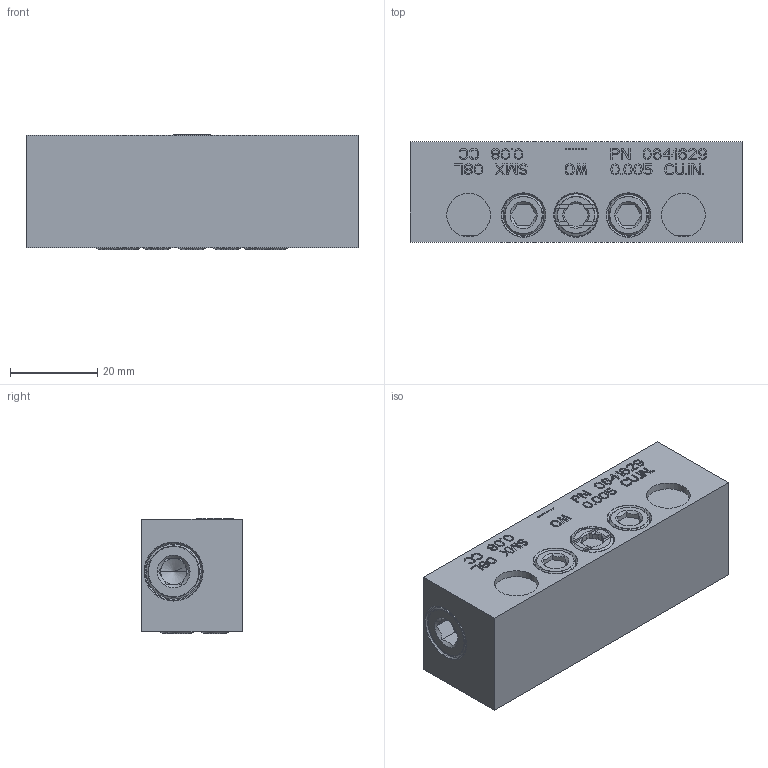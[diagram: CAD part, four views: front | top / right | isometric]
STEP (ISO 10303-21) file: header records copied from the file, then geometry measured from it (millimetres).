
FILE_DESCRIPTION((''),'2;1');
FILE_NAME('0641629_SMX_08L','2023-07-21T10:54:31',('pietro.masciave'),(''),'CREO PARAMETRIC BY PTC INC, 2022281','CREO PARAMETRIC BY PTC INC, 2022281','');
FILE_SCHEMA(('CONFIG_CONTROL_DESIGN'));
Length unit declared in the file: millimetre
Products named in the file (1): 0641629_SMX_08L
Bounding box: 76 x 23 x 26.33 mm (x, y, z)
Volume: 44003.3 mm3; surface area: 12677.9 mm2
Topology: 1 solids, 14 shells, 1440 faces, 3992 edges, 2653 vertices
Faces by surface type: plane 1264, cylinder 110, cone 44, torus 22
Entity records: 46488 total; most frequent: CARTESIAN_POINT 9391, ORIENTED_EDGE 7936, DIRECTION 7151, EDGE_CURVE 3988, VECTOR 3553, LINE 3553, VERTEX_POINT 2653, AXIS2_PLACEMENT_3D 1799
